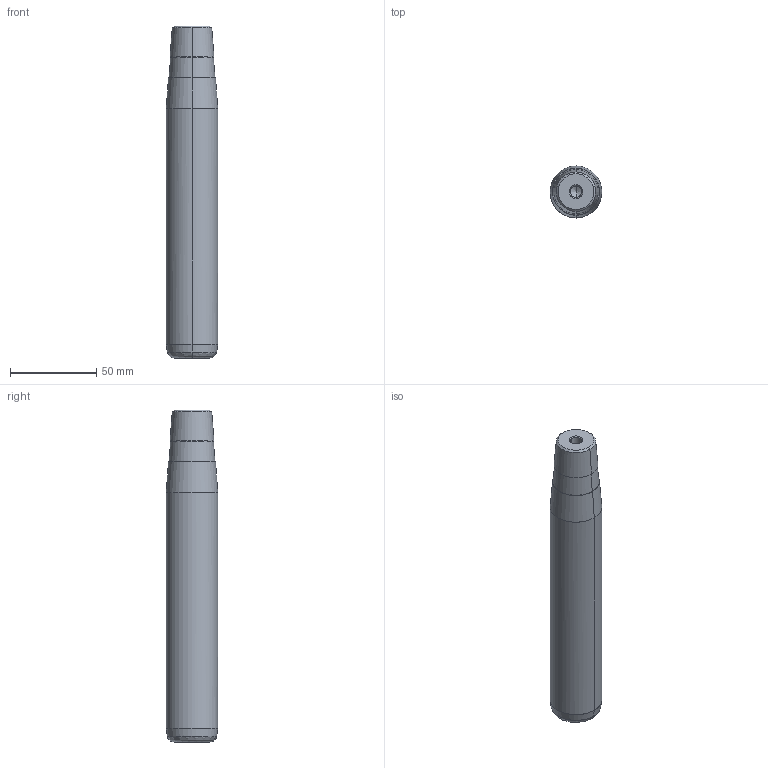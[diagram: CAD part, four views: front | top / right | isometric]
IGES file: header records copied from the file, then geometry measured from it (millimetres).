
Start section: START RECORD GO HERE.
Global section: file name: 722-30x160x193.igs; native system: DASSAULT SYSTEMES CATIA V5 R20 - www.3ds.com; preprocessor: CATIA Version 5 Release 20 ; author: Utente; organization: NB04-ASUS; date: 20210108.171924; units: millimetre
Bounding box: 30 x 30 x 193 mm (x, y, z)
Surface area: 19605.4 mm2 (no closed solid volume)
Topology: 0 solids, 0 shells, 32 faces, 192 edges, 188 vertices
Faces by surface type: revolution 30, plane 2
